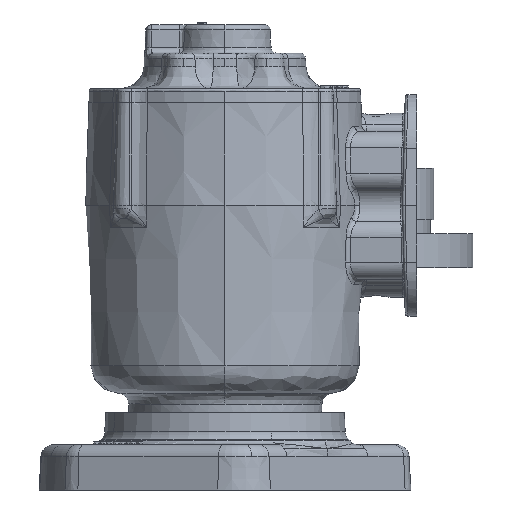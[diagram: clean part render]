
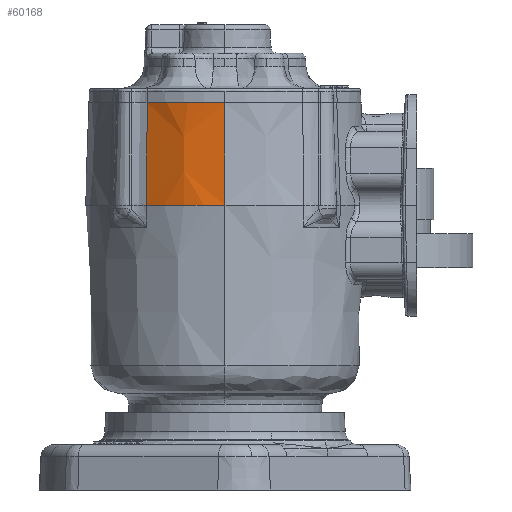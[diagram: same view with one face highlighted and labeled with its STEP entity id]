
A CAD part, left-side view. The second image highlights one B-rep face of the part: STEP entity #60168.
In plain terms, the highlighted conical face has half-angle 2 degrees and reference radius 78.232 mm.
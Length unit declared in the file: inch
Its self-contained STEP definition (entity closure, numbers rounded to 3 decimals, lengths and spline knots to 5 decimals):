
#5670 = AXIS2_PLACEMENT_3D ( 'NONE', #98605, #98601, #98596 ) ;
#5671 = CONICAL_SURFACE ( 'NONE', #5670, 3.08, 0.035 ) ;
#6319 = VECTOR ( 'NONE', #81700, 39.37008 ) ;
#6380 = AXIS2_PLACEMENT_3D ( 'NONE', #95576, #95579, #95582 ) ;
#6383 = CIRCLE ( 'NONE', #6380, 3.08 ) ;
#19159 = EDGE_LOOP ( 'NONE', ( #64631, #64629, #64628, #64626 ) ) ;
#23433 = VERTEX_POINT ( 'NONE', #50916 ) ;
#23811 = VERTEX_POINT ( 'NONE', #51291 ) ;
#23829 = VERTEX_POINT ( 'NONE', #51309 ) ;
#23861 = VERTEX_POINT ( 'NONE', #51341 ) ;
#45912 = B_SPLINE_CURVE_WITH_KNOTS ( 'NONE', 3,
 ( #81202, #81206, #81257, #81259, #81261, #81263, #81265, #81267, #81269, #81270 ),
 .UNSPECIFIED., .F., .F.,
 ( 4, 2, 2, 2, 4 ),
 ( 0., 0.125, 0.25, 0.375, 0.5 ),
 .UNSPECIFIED. ) ;
#48357 = B_SPLINE_CURVE_WITH_KNOTS ( 'NONE', 3,
 ( #96065, #96113, #96127, #96129, #96131, #96133, #96135, #96137, #96139, #96141, #96143, #96145, #96147, #96149, #96150, #96152 ),
 .UNSPECIFIED., .F., .F.,
 ( 4, 2, 2, 2, 2, 2, 2, 4 ),
 ( 0., 0.02608, 0.21484, 0.30922, 0.46023, 0.70185, 0.96989, 1. ),
 .UNSPECIFIED. ) ;
#50916 = CARTESIAN_POINT ( 'NONE',  ( -3.95359, 1.86514, 2.61184 ) ) ;
#51291 = CARTESIAN_POINT ( 'NONE',  ( -3.49656, 3.60152, 0.34734 ) ) ;
#51309 = CARTESIAN_POINT ( 'NONE',  ( -3.41704, 3.57757, 2.61184 ) ) ;
#51341 = CARTESIAN_POINT ( 'NONE',  ( -4.03267, 1.86514, 0.34734 ) ) ;
#55318 = EDGE_CURVE ( 'NONE', #23861, #23811, #6383, .T. ) ;
#55336 = EDGE_CURVE ( 'NONE', #23829, #23811, #48357, .T. ) ;
#55359 = EDGE_CURVE ( 'NONE', #23829, #23433, #45912, .T. ) ;
#55375 = EDGE_CURVE ( 'NONE', #23433, #23861, #81646, .T. ) ;
#60168 = ADVANCED_FACE ( 'NONE', ( #98599 ), #5671, .F. ) ;
#64626 = ORIENTED_EDGE ( 'NONE', *, *, #55336, .F. ) ;
#64628 = ORIENTED_EDGE ( 'NONE', *, *, #55318, .T. ) ;
#64629 = ORIENTED_EDGE ( 'NONE', *, *, #55375, .T. ) ;
#64631 = ORIENTED_EDGE ( 'NONE', *, *, #55359, .T. ) ;
#81202 = CARTESIAN_POINT ( 'NONE',  ( -3.41704, 3.57757, 2.61184 ) ) ;
#81206 = CARTESIAN_POINT ( 'NONE',  ( -3.5037, 3.45286, 2.61184 ) ) ;
#81257 = CARTESIAN_POINT ( 'NONE',  ( -3.58087, 3.32156, 2.61184 ) ) ;
#81259 = CARTESIAN_POINT ( 'NONE',  ( -3.71447, 3.04879, 2.61184 ) ) ;
#81261 = CARTESIAN_POINT ( 'NONE',  ( -3.7709, 2.90732, 2.61184 ) ) ;
#81263 = CARTESIAN_POINT ( 'NONE',  ( -3.86172, 2.61748, 2.61184 ) ) ;
#81265 = CARTESIAN_POINT ( 'NONE',  ( -3.8961, 2.46911, 2.61184 ) ) ;
#81267 = CARTESIAN_POINT ( 'NONE',  ( -3.94204, 2.16888, 2.61184 ) ) ;
#81269 = CARTESIAN_POINT ( 'NONE',  ( -3.95359, 2.01701, 2.61184 ) ) ;
#81270 = CARTESIAN_POINT ( 'NONE',  ( -3.95359, 1.86514, 2.61184 ) ) ;
#81644 = CARTESIAN_POINT ( 'NONE',  ( -4.03267, 1.86514, 0.34734 ) ) ;
#81646 = LINE ( 'NONE', #81644, #6319 ) ;
#81700 = DIRECTION ( 'NONE',  ( -0.035, 0., -0.999 ) ) ;
#95576 = CARTESIAN_POINT ( 'NONE',  ( -0.95267, 1.86514, 0.34734 ) ) ;
#95579 = DIRECTION ( 'NONE',  ( 0., 0., -1. ) ) ;
#95582 = DIRECTION ( 'NONE',  ( 0., -1., 0. ) ) ;
#96065 = CARTESIAN_POINT ( 'NONE',  ( -3.41704, 3.57757, 2.61184 ) ) ;
#96113 = CARTESIAN_POINT ( 'NONE',  ( -3.41772, 3.57777, 2.59241 ) ) ;
#96127 = CARTESIAN_POINT ( 'NONE',  ( -3.41842, 3.57798, 2.57275 ) ) ;
#96129 = CARTESIAN_POINT ( 'NONE',  ( -3.4242, 3.57969, 2.40875 ) ) ;
#96131 = CARTESIAN_POINT ( 'NONE',  ( -3.43046, 3.58155, 2.23113 ) ) ;
#96133 = CARTESIAN_POINT ( 'NONE',  ( -3.44062, 3.58458, 1.94251 ) ) ;
#96135 = CARTESIAN_POINT ( 'NONE',  ( -3.44452, 3.58575, 1.8315 ) ) ;
#96137 = CARTESIAN_POINT ( 'NONE',  ( -3.45086, 3.58765, 1.65111 ) ) ;
#96139 = CARTESIAN_POINT ( 'NONE',  ( -3.4533, 3.58838, 1.58173 ) ) ;
#96141 = CARTESIAN_POINT ( 'NONE',  ( -3.46061, 3.59058, 1.37358 ) ) ;
#96143 = CARTESIAN_POINT ( 'NONE',  ( -3.46548, 3.59205, 1.23482 ) ) ;
#96145 = CARTESIAN_POINT ( 'NONE',  ( -3.47813, 3.59589, 0.87404 ) ) ;
#96147 = CARTESIAN_POINT ( 'NONE',  ( -3.4859, 3.59826, 0.65202 ) ) ;
#96149 = CARTESIAN_POINT ( 'NONE',  ( -3.49475, 3.60097, 0.39902 ) ) ;
#96150 = CARTESIAN_POINT ( 'NONE',  ( -3.49565, 3.60124, 0.37338 ) ) ;
#96152 = CARTESIAN_POINT ( 'NONE',  ( -3.49656, 3.60152, 0.34734 ) ) ;
#98596 = DIRECTION ( 'NONE',  ( -1., 0., 0. ) ) ;
#98599 = FACE_OUTER_BOUND ( 'NONE', #19159, .T. ) ;
#98601 = DIRECTION ( 'NONE',  ( 0., 0., -1. ) ) ;
#98605 = CARTESIAN_POINT ( 'NONE',  ( -0.95267, 1.86514, 0.34734 ) ) ;
